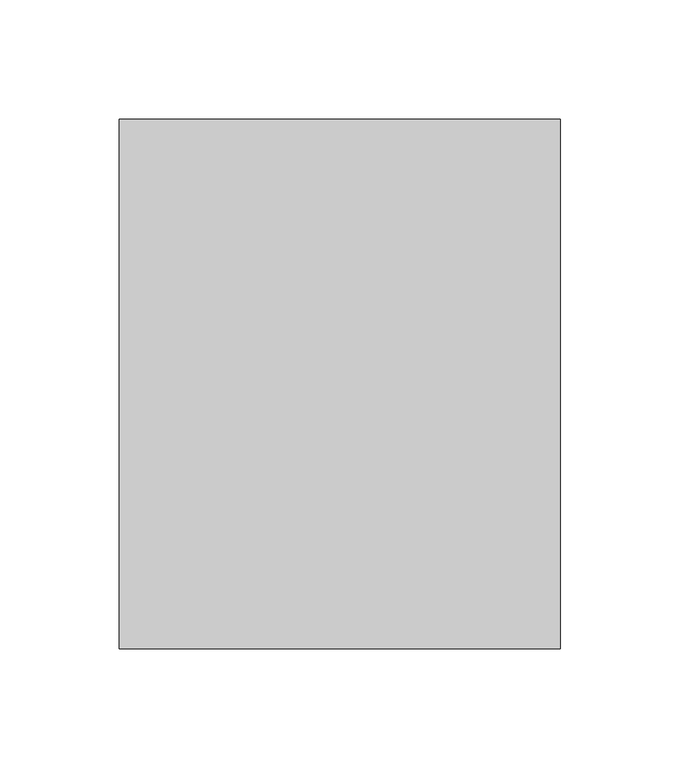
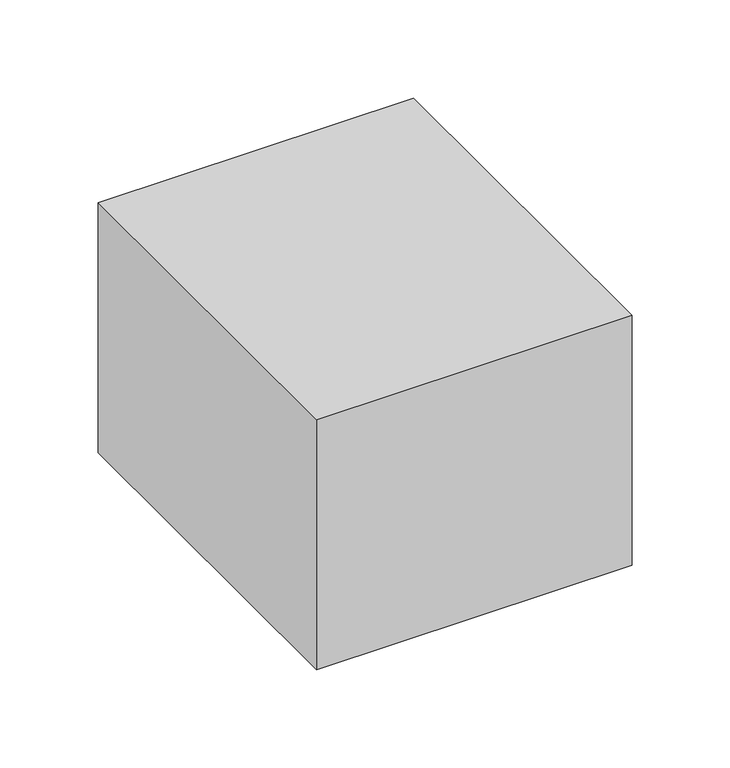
"""IFC4 building model written with IfcOpenShell, lengths in millimetres: light fixture geometry,  215 :  212155."""

import ifcopenshell
import ifcopenshell.guid

model = None  # the IFC model being written
_history = None  # IfcOwnerHistory: only IFC2X3 demands one
_inside = {}  # id of a spatial element -> (the spatial element, [elements in it])
_under = {}  # id of a project, library or spatial element -> (it, [spatial elements below it])
_declared = {}  # id of a project -> (the project, [libraries it declares])
_typed = {}  # id of a type object -> (the type object, [elements of that type])
_made_of = {}  # id of a material, layer set ... -> (it, [elements and type objects made of it])


def new_model(schema):
    """Start an empty IFC model of exactly this schema.

    Asked for "IFC4X3", IfcOpenShell would pick the latest addendum, in which some entities
    have other attributes; the version numbers below select the first issue.
    IFC2X3 requires an IfcOwnerHistory on every rooted entity: one is made here for all.
    """
    global model, _history
    if schema == "IFC4X3":
        model = ifcopenshell.file(schema_version=(4, 3, 0, 0))
    else:
        model = ifcopenshell.file(schema=schema)
    _inside.clear()
    _under.clear()
    _declared.clear()
    _typed.clear()
    _made_of.clear()
    _history = None
    if model.schema == "IFC2X3":
        org = make("IfcOrganization", Name="unknown")
        user = make(
            "IfcPersonAndOrganization",
            ThePerson=make("IfcPerson", FamilyName="unknown"),
            TheOrganization=org,
        )
        app = make(
            "IfcApplication",
            ApplicationDeveloper=org,
            Version="unknown",
            ApplicationFullName="unknown",
            ApplicationIdentifier="unknown",
        )
        _history = make(
            "IfcOwnerHistory",
            OwningUser=user,
            OwningApplication=app,
            ChangeAction="ADDED",
            CreationDate=0,
        )
    return model


def make(cls, **values):
    """One entity of the class cls with the attributes given. An attribute that is None is left unset."""
    return model.create_entity(
        cls, **{name: value for name, value in values.items() if value is not None}
    )


def rooted(cls, **values):
    """An entity with a GlobalId (a new one), such as an element, a storey or a relation."""
    return make(cls, GlobalId=ifcopenshell.guid.new(), OwnerHistory=_history, **values)


def si_unit(unit_type, name, prefix=None):
    """IfcSIUnit, for example si_unit("LENGTHUNIT", "METRE", prefix="MILLI")."""
    return make("IfcSIUnit", UnitType=unit_type, Prefix=prefix, Name=name)


def assignment(units):
    """IfcUnitAssignment: the units of a project."""
    return None if units is None else make("IfcUnitAssignment", Units=units)


def point(xyz):
    """IfcCartesianPoint."""
    return None if xyz is None else make("IfcCartesianPoint", Coordinates=xyz)


def direction(xyz):
    """IfcDirection."""
    return None if xyz is None else make("IfcDirection", DirectionRatios=xyz)


def frame(location, z_axis=None, x_axis=None):
    """IfcAxis2Placement3D, a coordinate frame: its origin and axes. An axis left out is left unset."""
    return make(
        "IfcAxis2Placement3D",
        Location=point(location),
        Axis=direction(z_axis),
        RefDirection=direction(x_axis),
    )


def origin():
    """The frame at (0, 0, 0) with its axes left unset."""
    return frame((0.0, 0.0, 0.0))


def place(relative_to, where):
    """IfcLocalPlacement: puts the frame where relative to a parent placement (None: the world)."""
    return make(
        "IfcLocalPlacement", PlacementRelTo=relative_to, RelativePlacement=where
    )


def context(
    kind, dimensions, precision=None, world=None, true_north=None, identifier=None
):
    """IfcGeometricRepresentationContext, for example the 3D "Model" context."""
    return make(
        "IfcGeometricRepresentationContext",
        ContextIdentifier=identifier,
        ContextType=kind,
        CoordinateSpaceDimension=dimensions,
        Precision=precision,
        WorldCoordinateSystem=world,
        TrueNorth=true_north,
    )


def project(units=None, contexts=None):
    """IfcProject with its units and contexts."""
    return rooted(
        "IfcProject",
        Name="project",
        RepresentationContexts=contexts,
        UnitsInContext=assignment(units),
    )


def spatial(cls, under=None, at=None, **own):
    """A site, building, storey or space (cls), placed at a placement, below another one or the project."""
    s = rooted(cls, ObjectPlacement=at, **own)
    if under is not None:
        _under.setdefault(under.id(), (under, []))[1].append(s)
    return s


def polyline(points):
    """IfcPolyline through the points."""
    return make("IfcPolyline", Points=[point(p) for p in points])


def outline(outer, holes=None, kind="AREA"):
    """IfcArbitraryClosedProfileDef: a profile drawn as a closed curve; with holes, ...WithVoids."""
    if holes is None:
        return make("IfcArbitraryClosedProfileDef", ProfileType=kind, OuterCurve=outer)
    return make(
        "IfcArbitraryProfileDefWithVoids",
        ProfileType=kind,
        OuterCurve=outer,
        InnerCurves=holes,
    )


def extrude(swept, where, along, depth):
    """IfcExtrudedAreaSolid: the profile swept, set in the frame where, extruded along a direction by depth."""
    return make(
        "IfcExtrudedAreaSolid",
        SweptArea=swept,
        Position=where,
        ExtrudedDirection=direction(along),
        Depth=depth,
    )


def shape(context_of_items, identifier, shape_type, items):
    """IfcShapeRepresentation: the items that make up one representation, for example the "Body"."""
    return make(
        "IfcShapeRepresentation",
        ContextOfItems=context_of_items,
        RepresentationIdentifier=identifier,
        RepresentationType=shape_type,
        Items=items,
    )


def source(mapping_origin, context_of_items, identifier, shape_type, items):
    """IfcRepresentationMap: a shape defined once, which mapped items show again and again."""
    return make(
        "IfcRepresentationMap",
        MappingOrigin=mapping_origin,
        MappedRepresentation=shape(context_of_items, identifier, shape_type, items),
    )


def transform(
    local_origin,
    x_axis=None,
    y_axis=None,
    z_axis=None,
    scale=None,
    scale2=None,
    scale3=None,
    uniform=True,
):
    """IfcCartesianTransformationOperator3D, or its non-uniform kind. x_axis, y_axis, z_axis: its Axis1, 2, 3."""
    if uniform:
        return make(
            "IfcCartesianTransformationOperator3D",
            Axis1=direction(x_axis),
            Axis2=direction(y_axis),
            LocalOrigin=point(local_origin),
            Scale=scale,
            Axis3=direction(z_axis),
        )
    return make(
        "IfcCartesianTransformationOperator3DnonUniform",
        Axis1=direction(x_axis),
        Axis2=direction(y_axis),
        LocalOrigin=point(local_origin),
        Scale=scale,
        Axis3=direction(z_axis),
        Scale2=scale2,
        Scale3=scale3,
    )


def mapped(mapping_source, mapping_target):
    """IfcMappedItem: shows the shape of a source again, moved by a transform."""
    return make(
        "IfcMappedItem", MappingSource=mapping_source, MappingTarget=mapping_target
    )


def made_of(thing, what):
    """Note that an element or type object is made of a material, layer set ...; save() writes the relation."""
    if what is not None:
        _made_of.setdefault(what.id(), (what, []))[1].append(thing)
    return thing


def element(
    cls,
    number,
    at=None,
    inside=None,
    cuts=None,
    type_object=None,
    material=None,
    context=None,
    identifier="Body",
    shape_type=None,
    held_by="IfcProductDefinitionShape",
    body=None,
    shapes=None,
    **own,
):
    """One element of the class cls, such as IfcWall. Its Tag is "e" and its number.

    at: its placement. inside: the storey or other place that contains it. cuts: it is an
    opening in that element (IfcRelVoidsElement). A single representation is given by context,
    identifier, shape_type and body (its items); several are given by shapes. held_by: the class
    of the entity that holds the representations. save() writes the other relations.
    """
    e = rooted(cls, Tag="e%d" % number, ObjectPlacement=at, **own)
    if body is not None:
        shapes = [shape(context, identifier, shape_type, body)]
    if shapes is not None:
        e.Representation = make(held_by, Representations=shapes)
    if inside is not None:
        _inside.setdefault(inside.id(), (inside, []))[1].append(e)
    if cuts is not None:
        rooted(
            "IfcRelVoidsElement", RelatingBuildingElement=cuts, RelatedOpeningElement=e
        )
    if type_object is not None:
        _typed.setdefault(type_object.id(), (type_object, []))[1].append(e)
    return made_of(e, material)


def aggregate(whole, parts):
    """IfcRelAggregates: a whole, such as a stair, and the parts it consists of."""
    return rooted("IfcRelAggregates", RelatingObject=whole, RelatedObjects=parts)


def save(model, path):
    """Write the relations noted so far, then the file.

    IfcRelAggregates (storeys below a building ...), IfcRelContainedInSpatialStructure (elements
    in a storey), IfcRelDefinesByType, IfcRelAssociatesMaterial and IfcRelDeclares: one each for
    every whole, place, type object, material and project.
    """
    for whole, parts in _under.values():
        aggregate(whole, parts)
    for where, things in _inside.values():
        rooted(
            "IfcRelContainedInSpatialStructure",
            RelatedElements=things,
            RelatingStructure=where,
        )
    for kind, things in _typed.values():
        rooted("IfcRelDefinesByType", RelatedObjects=things, RelatingType=kind)
    for what, things in _made_of.values():
        rooted("IfcRelAssociatesMaterial", RelatedObjects=things, RelatingMaterial=what)
    for by, libraries in _declared.values():
        rooted("IfcRelDeclares", RelatingContext=by, RelatedDefinitions=libraries)
    model.write(path)


def light_fixture_ca70e894(model_context):
    return source(origin(), model_context, "Body", "SweptSolid", [
        extrude(outline(polyline([(13944.6746511, 12923.5121745), (14129.6746511, 12923.5121745), (14129.6746511, 12701.5121745), (13944.6746511, 12701.5121745), (13944.6746511, 12923.5121745)])), frame((0.0, 0.0, 1375.0), z_axis=(0.0, 0.0, 1.0), x_axis=(1.0, 0.0, 0.0)), (0.0, 0.0, 1.0), 155.0),
    ])


if __name__ == "__main__":
    model = new_model("IFC4")
    model_context = context("Model", 3, world=origin())
    ifc_project = project(units=[si_unit("LENGTHUNIT", "METRE", prefix="MILLI")], contexts=[model_context])
    site = spatial("IfcSite", under=ifc_project)
    building = spatial("IfcBuilding", under=site)
    placement = place(None, origin())
    light_fixture_shape = light_fixture_ca70e894(model_context)
    element("IfcLightFixture", 1, ObjectType=" 215 :  212155", at=placement, inside=building, context=model_context, shape_type="MappedRepresentation", body=[
        mapped(light_fixture_shape, transform((0.0, 0.0, 0.0), x_axis=(1.0, 0.0, 0.0), y_axis=(0.0, 1.0, 0.0), z_axis=(0.0, 0.0, 1.0))),
    ])
    save(model, "model.ifc")
